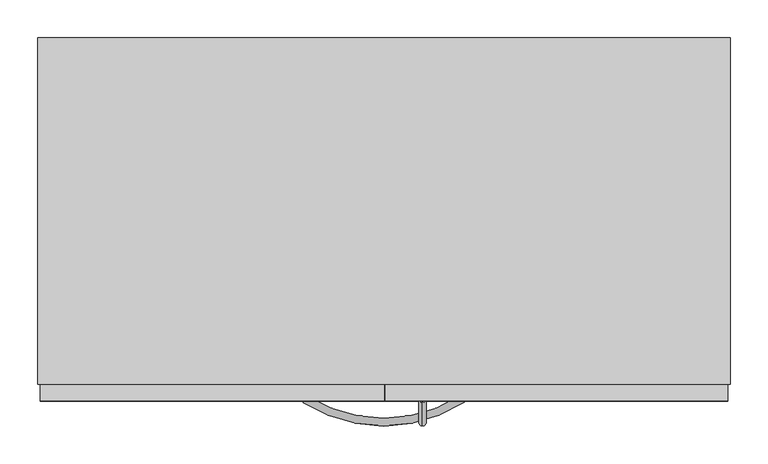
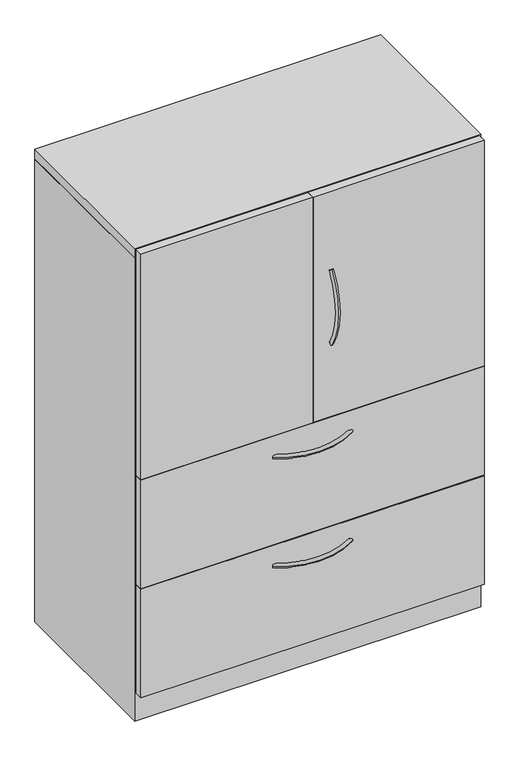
"""IFC4 building model written with IfcOpenShell, lengths in millimetres: furniture geometry, Steelcase - Universal Storage - Cabinet - Combination - Proud Steel : 52H - Hinged Doors/2 Drawers - 18 7/8D x 36W."""

from ifc_helpers import new_model, si_unit, point, frame, origin, place, context, project, spatial, polyline, circle_curve, ellipse_curve, trimmed, outline, extrude, faceted_brep, source, transform, mapped, element, save
from ifc_brep_helpers import plane_surface, revolved_surface, advanced_brep


def furniture_41c05b15(model_context):
    return source(origin(), model_context, "Body", "SolidModel", [
        extrude(outline(polyline([(911.2225413, -479.552), (3.1725353, -479.552), (3.1725353, -457.3261219), (911.2225413, -457.3261219), (911.2225413, -479.552)])), frame((0.0, 0.0, 77.724), z_axis=(0.0, 0.0, 1.0), x_axis=(1.0, 0.0, 0.0)), (0.0, 0.0, 1.0), 303.276),
        extrude(outline(polyline([(911.2225413, -479.552), (3.1725353, -479.552), (3.1725353, -457.3261219), (911.2225413, -457.3261219), (911.2225413, -479.552)])), frame((0.0, 0.0, 382.524), z_axis=(0.0, 0.0, 1.0), x_axis=(1.0, 0.0, 0.0)), (0.0, 0.0, 1.0), 303.276),
        extrude(outline(polyline([(457.2, -479.552), (3.1725353, -479.552), (3.1725353, -457.3261219), (457.2, -457.3261219), (457.2, -479.552)])), frame((0.0, 0.0, 687.7062596), z_axis=(0.0, 0.0, 1.0), x_axis=(1.0, 0.0, 0.0)), (0.0, 0.0, 1.0), 629.92),
        extrude(outline(polyline([(911.2225413, -479.552), (458.7239992, -479.552), (458.7239992, -457.3261219), (911.2225413, -457.3261219), (911.2225413, -479.552)])), frame((0.0, 0.0, 687.7062596), z_axis=(0.0, 0.0, 1.0), x_axis=(1.0, 0.0, 0.0)), (0.0, 0.0, 1.0), 629.92),
        advanced_brep(
        [(507.9682496, -481.5705994, 1099.843666), (507.9682496, -473.0108019, 1094.3705073), (507.9682496, -481.1337636, 887.5367456), (507.9682496, -472.5965612, 893.0450825)],
        [
            (0, 1, circle_curve(frame((507.9682496, -477.2907007, 1097.1070866), z_axis=(0.0, 0.5386967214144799, 0.842499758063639), x_axis=(0.0, 0.842499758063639, -0.5386967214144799)), 5.08)),
            (1, 0, circle_curve(frame((507.9682496, -477.2907007, 1097.1070866), z_axis=(0.0, 0.5386967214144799, 0.842499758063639), x_axis=(0.0, 0.842499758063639, -0.5386967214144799)), 5.08)),
            (2, 3, circle_curve(frame((507.9682496, -476.8651624, 890.2909141), z_axis=(0.0, 0.5421591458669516, -0.8402758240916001), x_axis=(0.0, 0.8402758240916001, 0.5421591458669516)), 5.08)),
            (3, 2, circle_curve(frame((507.9682496, -476.8651624, 890.2909141), z_axis=(0.0, 0.5421591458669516, -0.8402758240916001), x_axis=(0.0, 0.8402758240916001, 0.5421591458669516)), 5.08)),
            (3, 1, circle_curve(frame((507.9682496, -316.0827352, 994.0302589), z_axis=(-1.0, 0.0, 0.0), x_axis=(0.0, -0.8424997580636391, 0.5386967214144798)), 186.2648211)),
            (0, 2, circle_curve(frame((507.9682496, -316.0827352, 994.0302589), z_axis=(1.0, 0.0, 0.0), x_axis=(0.0, -0.8424997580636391, 0.5386967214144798)), 196.4248211)),
        ],
        [
            plane_surface(frame((508.7619996, -476.6365286, 1096.6888072), z_axis=(0.0, 0.5386967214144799, 0.8424997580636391), x_axis=(1.0, 0.0, 0.0))),
            plane_surface(frame((508.7619996, -476.2127171, 890.711882), z_axis=(0.0, 0.5421591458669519, -0.8402758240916), x_axis=(1.0, 0.0, 0.0))),
            revolved_surface(trimmed(ellipse_curve(frame((507.9682496, -477.2907007, 1097.1070866), z_axis=(0.0, 0.5386967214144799, 0.842499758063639), x_axis=(0.0, 0.842499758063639, -0.5386967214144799)), 5.08, 5.08), [point((507.9682496, -481.5705994, 1099.843666))], [point((507.9682496, -473.0108019, 1094.3705073))], True, "CARTESIAN"), (508.7619996, -316.0827352, 994.0302589), (1.0, 0.0, 0.0)),
            revolved_surface(trimmed(ellipse_curve(frame((507.9682496, -477.2907007, 1097.1070866), z_axis=(0.0, 0.5386967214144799, 0.842499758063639), x_axis=(0.0, 0.842499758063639, -0.5386967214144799)), 5.08, 5.08), [point((507.9682496, -473.0108019, 1094.3705073))], [point((507.9682496, -481.5705994, 1099.843666))], True, "CARTESIAN"), (508.7619996, -316.0827352, 994.0302589), (1.0, 0.0, 0.0)),
        ],
        [
            (0, [[1, 2]]),
            (1, [[3, 4]]),
            (2, [[5, -1, 6, -4]]),
            (3, [[-6, -2, -5, -3]]),
        ],
    ),
        advanced_brep(
        [(350.6245932, -481.5705994, 323.56425), (356.0977519, -473.0108019, 323.56425), (562.9315136, -481.1337636, 323.56425), (557.4231767, -472.5965612, 323.56425)],
        [
            (0, 1, circle_curve(frame((353.3611726, -477.2907007, 323.56425), z_axis=(-0.8424997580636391, 0.5386967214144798, 0.0), x_axis=(0.5386967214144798, 0.8424997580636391, 0.0)), 5.08)),
            (1, 0, circle_curve(frame((353.3611726, -477.2907007, 323.56425), z_axis=(-0.8424997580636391, 0.5386967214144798, 0.0), x_axis=(0.5386967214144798, 0.8424997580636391, 0.0)), 5.08)),
            (2, 3, circle_curve(frame((560.1773452, -476.8651624, 323.56425), z_axis=(0.8402758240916, 0.5421591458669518, 0.0), x_axis=(-0.5421591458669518, 0.8402758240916, 0.0)), 5.08)),
            (3, 2, circle_curve(frame((560.1773452, -476.8651624, 323.56425), z_axis=(0.8402758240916, 0.5421591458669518, 0.0), x_axis=(-0.5421591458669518, 0.8402758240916, 0.0)), 5.08)),
            (3, 1, circle_curve(frame((456.4380004, -316.0827352, 323.56425), z_axis=(0.0, 0.0, -1.0), x_axis=(-0.5386967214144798, -0.8424997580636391, 0.0)), 186.2648211)),
            (0, 2, circle_curve(frame((456.4380004, -316.0827352, 323.56425), z_axis=(0.0, 0.0, 1.0), x_axis=(-0.5386967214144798, -0.8424997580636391, 0.0)), 196.4248211)),
        ],
        [
            plane_surface(frame((353.7794521, -476.6365286, 324.358), z_axis=(-0.8424997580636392, 0.5386967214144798, 0.0), x_axis=(0.0, 0.0, 1.0))),
            plane_surface(frame((559.7563772, -476.2127171, 324.358), z_axis=(0.8402758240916, 0.5421591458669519, 0.0), x_axis=(0.0, 0.0, 1.0))),
            revolved_surface(trimmed(ellipse_curve(frame((353.3611726, -477.2907007, 323.56425), z_axis=(-0.8424997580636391, 0.5386967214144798, 0.0), x_axis=(0.5386967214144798, 0.8424997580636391, 0.0)), 5.08, 5.08), [point((350.6245932, -481.5705994, 323.56425))], [point((356.0977519, -473.0108019, 323.56425))], True, "CARTESIAN"), (456.4380004, -316.0827352, 324.358), (0.0, 0.0, 1.0)),
            revolved_surface(trimmed(ellipse_curve(frame((353.3611726, -477.2907007, 323.56425), z_axis=(-0.8424997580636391, 0.5386967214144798, 0.0), x_axis=(0.5386967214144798, 0.8424997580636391, 0.0)), 5.08, 5.08), [point((356.0977519, -473.0108019, 323.56425))], [point((350.6245932, -481.5705994, 323.56425))], True, "CARTESIAN"), (456.4380004, -316.0827352, 324.358), (0.0, 0.0, 1.0)),
        ],
        [
            (0, [[1, 2]]),
            (1, [[3, 4]]),
            (2, [[5, -1, 6, -4]]),
            (3, [[-6, -2, -5, -3]]),
        ],
    ),
        advanced_brep(
        [(350.6245932, -481.5705994, 627.85625), (356.0977519, -473.0108019, 627.85625), (562.9315136, -481.1337636, 627.85625), (557.4231767, -472.5965612, 627.85625)],
        [
            (0, 1, circle_curve(frame((353.3611726, -477.2907007, 627.85625), z_axis=(-0.8424997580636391, 0.5386967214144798, 0.0), x_axis=(0.5386967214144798, 0.8424997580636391, 0.0)), 5.08)),
            (1, 0, circle_curve(frame((353.3611726, -477.2907007, 627.85625), z_axis=(-0.8424997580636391, 0.5386967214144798, 0.0), x_axis=(0.5386967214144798, 0.8424997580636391, 0.0)), 5.08)),
            (2, 3, circle_curve(frame((560.1773452, -476.8651624, 627.85625), z_axis=(0.8402758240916, 0.5421591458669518, 0.0), x_axis=(-0.5421591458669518, 0.8402758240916, 0.0)), 5.08)),
            (3, 2, circle_curve(frame((560.1773452, -476.8651624, 627.85625), z_axis=(0.8402758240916, 0.5421591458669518, 0.0), x_axis=(-0.5421591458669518, 0.8402758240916, 0.0)), 5.08)),
            (3, 1, circle_curve(frame((456.4380004, -316.0827352, 627.85625), z_axis=(0.0, 0.0, -1.0), x_axis=(-0.5386967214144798, -0.8424997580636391, 0.0)), 186.2648211)),
            (0, 2, circle_curve(frame((456.4380004, -316.0827352, 627.85625), z_axis=(0.0, 0.0, 1.0), x_axis=(-0.5386967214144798, -0.8424997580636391, 0.0)), 196.4248211)),
        ],
        [
            plane_surface(frame((353.7794521, -476.6365286, 628.65), z_axis=(-0.8424997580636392, 0.5386967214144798, 0.0), x_axis=(0.0, 0.0, 1.0))),
            plane_surface(frame((559.7563772, -476.2127171, 628.65), z_axis=(0.8402758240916, 0.5421591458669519, 0.0), x_axis=(0.0, 0.0, 1.0))),
            revolved_surface(trimmed(ellipse_curve(frame((353.3611726, -477.2907007, 627.85625), z_axis=(-0.8424997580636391, 0.5386967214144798, 0.0), x_axis=(0.5386967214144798, 0.8424997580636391, 0.0)), 5.08, 5.08), [point((350.6245932, -481.5705994, 627.85625))], [point((356.0977519, -473.0108019, 627.85625))], True, "CARTESIAN"), (456.4380004, -316.0827352, 628.65), (0.0, 0.0, 1.0)),
            revolved_surface(trimmed(ellipse_curve(frame((353.3611726, -477.2907007, 627.85625), z_axis=(-0.8424997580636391, 0.5386967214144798, 0.0), x_axis=(0.5386967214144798, 0.8424997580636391, 0.0)), 5.08, 5.08), [point((356.0977519, -473.0108019, 627.85625))], [point((350.6245932, -481.5705994, 627.85625))], True, "CARTESIAN"), (456.4380004, -316.0827352, 628.65), (0.0, 0.0, 1.0)),
        ],
        [
            (0, [[1, 2]]),
            (1, [[3, 4]]),
            (2, [[5, -1, 6, -4]]),
            (3, [[-6, -2, -5, -3]]),
        ],
    ),
        faceted_brep([(25.4000008, -457.3261219, 76.2), (889.0000242, -457.3261219, 76.2), (889.0000242, -25.4000008, 76.2), (25.4000008, -25.4000008, 76.2), (914.4, 0.0, 0.0), (914.4, -457.3261219, 0.0), (0.0, -457.3261219, 0.0), (0.0, 0.0, 0.0), (0.0, 0.0, 1293.876), (914.4, 0.0, 1293.876), (0.0, -457.3261219, 1293.876), (914.4, -457.3261219, 1293.876), (889.0000242, -457.3261219, 1293.876), (25.4000008, -457.3261219, 1293.876), (889.0000242, -25.4000008, 1293.876), (25.4000008, -25.4000008, 1293.876)], [[[0, 1, 2, 3]], [[4, 5, 6, 7]], [[4, 7, 8, 9]], [[8, 7, 6, 10]], [[10, 6, 5, 11, 12, 1, 0, 13]], [[11, 5, 4, 9]], [[14, 12, 11, 9, 8, 10, 13, 15]], [[12, 14, 2, 1]], [[15, 13, 0, 3]], [[14, 15, 3, 2]]]),
        extrude(outline(polyline([(914.4, 0.0), (914.4, -457.3261219), (0.0, -457.3261219), (0.0, 0.0), (914.4, 0.0)])), frame((0.0, 0.0, 1295.3999516), z_axis=(0.0, 0.0, 1.0), x_axis=(1.0, 0.0, 0.0)), (0.0, 0.0, 1.0), 25.4000484),
    ])


if __name__ == "__main__":
    model = new_model("IFC4")
    model_context = context("Model", 3, world=origin())
    ifc_project = project(units=[si_unit("LENGTHUNIT", "METRE", prefix="MILLI")], contexts=[model_context])
    site = spatial("IfcSite", under=ifc_project)
    building = spatial("IfcBuilding", under=site)
    placement = place(None, origin())
    furniture_shape = furniture_41c05b15(model_context)
    element("IfcFurniture", 1, ObjectType="Steelcase - Universal Storage - Cabinet - Combination - Proud Steel : 52H - Hinged Doors/2 Drawers - 18 7/8D x 36W", at=placement, inside=building, context=model_context, shape_type="MappedRepresentation", body=[
        mapped(furniture_shape, transform((0.0, 0.0, 0.0), x_axis=(1.0, 0.0, 0.0), y_axis=(0.0, 1.0, 0.0), z_axis=(0.0, 0.0, 1.0))),
    ])
    save(model, "model.ifc")
